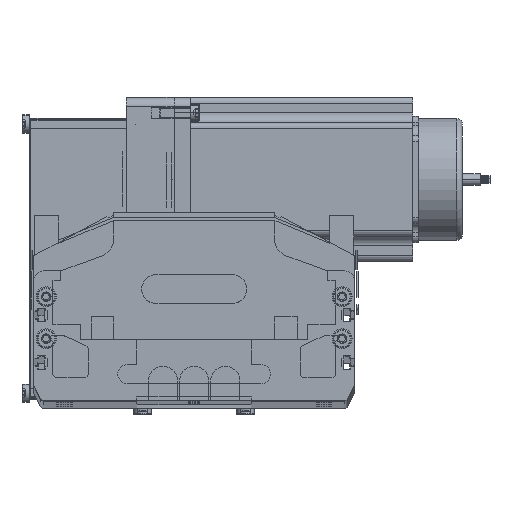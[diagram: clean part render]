
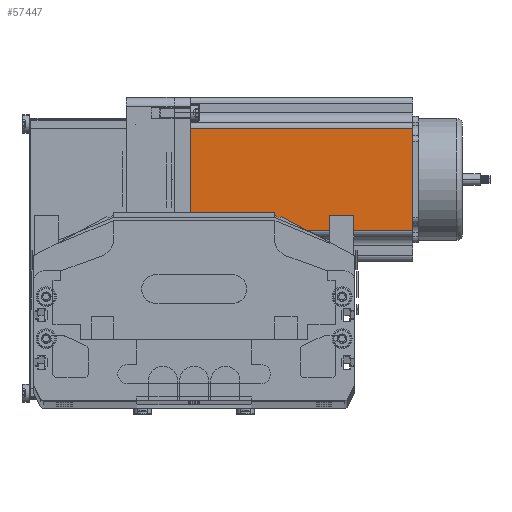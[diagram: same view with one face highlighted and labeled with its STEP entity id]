
A CAD part, top view. The second image highlights one B-rep face of the part: STEP entity #57447.
In plain terms, the highlighted planar face has unit normal (0, 0, 1) as drawn and (0, -1, 0) by its records, which use the part's own axes.
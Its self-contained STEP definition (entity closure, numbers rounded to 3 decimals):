
#1363 = LINE ( 'NONE', #1437, #1436 ) ;
#1365 = DIRECTION ( 'NONE',  ( 1., 0., 0. ) ) ;
#1366 = VECTOR ( 'NONE', #1365, 1000. ) ;
#1367 = CARTESIAN_POINT ( 'NONE',  ( 69.74, 0., 116.5 ) ) ;
#1369 = CARTESIAN_POINT ( 'NONE',  ( 0., 0., 116.5 ) ) ;
#1370 = LINE ( 'NONE', #1369, #1366 ) ;
#1373 = CARTESIAN_POINT ( 'NONE',  ( 69.74, 0., 0. ) ) ;
#1382 = CARTESIAN_POINT ( 'NONE',  ( 16.16, 0., 116.5 ) ) ;
#1423 = DIRECTION ( 'NONE',  ( 1., 0., 0. ) ) ;
#1424 = VECTOR ( 'NONE', #1423, 1000. ) ;
#1425 = CARTESIAN_POINT ( 'NONE',  ( 0., 0., 0. ) ) ;
#1426 = LINE ( 'NONE', #1425, #1424 ) ;
#1428 = CARTESIAN_POINT ( 'NONE',  ( 16.16, 0., 0. ) ) ;
#1429 = DIRECTION ( 'NONE',  ( 0., 0., -1. ) ) ;
#1430 = VECTOR ( 'NONE', #1429, 1000. ) ;
#1431 = CARTESIAN_POINT ( 'NONE',  ( 16.16, 0., 116.5 ) ) ;
#1432 = LINE ( 'NONE', #1431, #1430 ) ;
#1435 = DIRECTION ( 'NONE',  ( 0., 0., 1. ) ) ;
#1436 = VECTOR ( 'NONE', #1435, 1000. ) ;
#1437 = CARTESIAN_POINT ( 'NONE',  ( 69.74, 0., 116.5 ) ) ;
#45018 = DIRECTION ( 'NONE',  ( 0., 0., 1. ) ) ;
#45019 = DIRECTION ( 'NONE',  ( 0., 1., 0. ) ) ;
#45020 = CARTESIAN_POINT ( 'NONE',  ( 0., 0., 116.5 ) ) ;
#45034 = PLANE ( 'NONE',  #45044 ) ;
#45044 = AXIS2_PLACEMENT_3D ( 'NONE', #45020, #45019, #45018 ) ;
#45048 = FACE_OUTER_BOUND ( 'NONE', #57449, .T. ) ;
#57244 = VERTEX_POINT ( 'NONE', #1373 ) ;
#57245 = EDGE_CURVE ( 'NONE', #57255, #57247, #1370, .T. ) ;
#57246 = EDGE_CURVE ( 'NONE', #57244, #57247, #1363, .T. ) ;
#57247 = VERTEX_POINT ( 'NONE', #1367 ) ;
#57248 = EDGE_CURVE ( 'NONE', #57255, #57257, #1432, .T. ) ;
#57249 = ORIENTED_EDGE ( 'NONE', *, *, #57245, .F. ) ;
#57251 = EDGE_CURVE ( 'NONE', #57257, #57244, #1426, .T. ) ;
#57253 = ORIENTED_EDGE ( 'NONE', *, *, #57248, .T. ) ;
#57255 = VERTEX_POINT ( 'NONE', #1382 ) ;
#57257 = VERTEX_POINT ( 'NONE', #1428 ) ;
#57259 = ORIENTED_EDGE ( 'NONE', *, *, #57246, .T. ) ;
#57447 = ADVANCED_FACE ( 'NONE', ( #45048 ), #45034, .F. ) ;
#57448 = ORIENTED_EDGE ( 'NONE', *, *, #57251, .T. ) ;
#57449 = EDGE_LOOP ( 'NONE', ( #57448, #57259, #57249, #57253 ) ) ;
